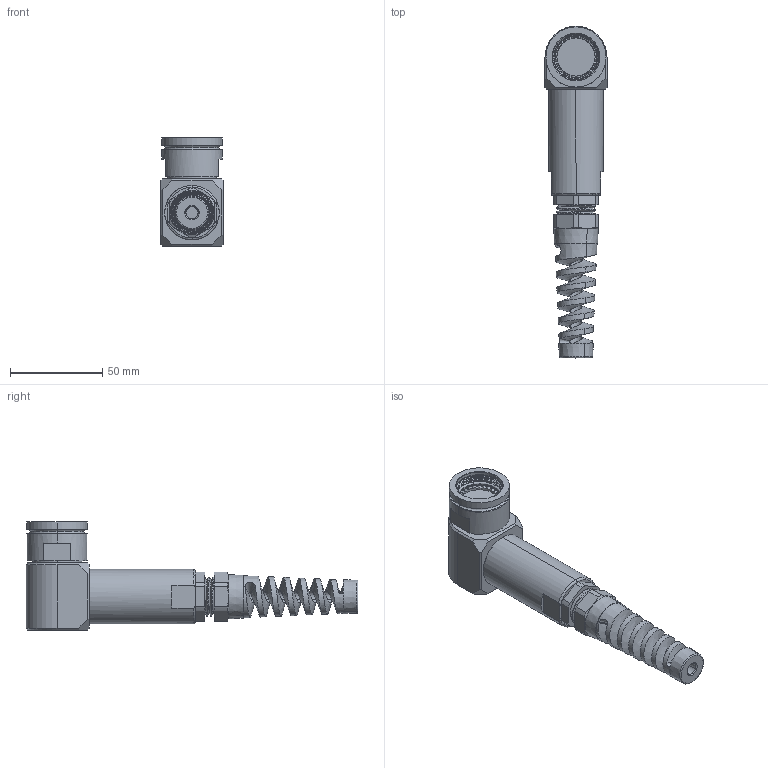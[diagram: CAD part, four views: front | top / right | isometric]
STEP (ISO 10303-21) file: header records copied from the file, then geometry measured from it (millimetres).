
FILE_DESCRIPTION (( 'STEP AP214' ), '1' );
FILE_NAME ('Q38EBSHELL-90X-17-XXXX-GB.STEP', '2025-09-22T15:09:57', ( '' ), ( '' ), 'SwSTEP 2.0', 'SolidWorks 2024', '' );
FILE_SCHEMA (( 'AUTOMOTIVE_DESIGN' ));
Length unit declared in the file: millimetre
Products named in the file (1): Q38EBSHELL-90X-17-XXXX-GB
Bounding box: 33.6 x 179.83 x 58.57 mm (x, y, z)
Volume: 109978.7 mm3; surface area: 26904.2 mm2
Topology: 2 solids, 4 shells, 323 faces, 987 edges, 689 vertices
Faces by surface type: plane 173, cylinder 79, cone 45, torus 13, bspline 13
Entity records: 17820 total; most frequent: CARTESIAN_POINT 9570, ORIENTED_EDGE 1974, DIRECTION 1485, EDGE_CURVE 987, VERTEX_POINT 689, AXIS2_PLACEMENT_3D 590, EDGE_LOOP 344, ADVANCED_FACE 323
